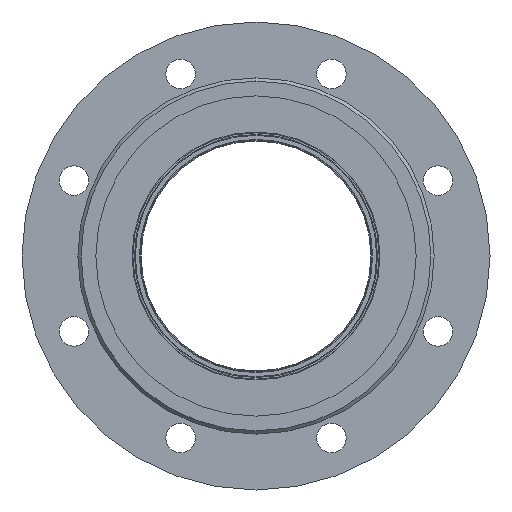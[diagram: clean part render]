
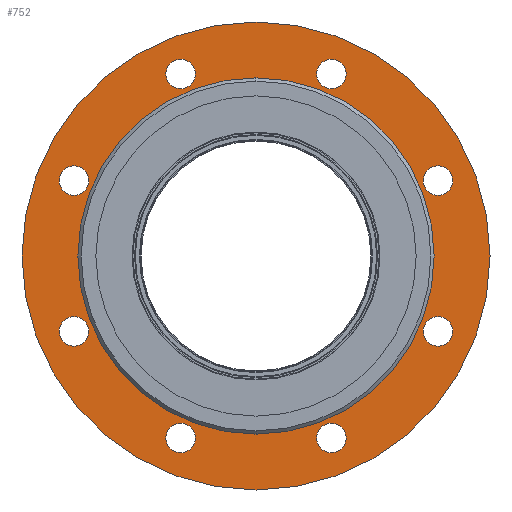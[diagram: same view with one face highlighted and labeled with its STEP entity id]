
A CAD part, left-side view. The second image highlights one B-rep face of the part: STEP entity #752.
In plain terms, the highlighted planar face has unit normal (-1, 0, 0).
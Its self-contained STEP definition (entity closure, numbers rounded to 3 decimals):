
#752=ADVANCED_FACE('',(#1439,#1440,#1441,#1442,#1443,#1444,#1445,#1446,#1447,#1448),#1449,.F.);
#1439=FACE_BOUND('',#2275,.T.);
#1440=FACE_BOUND('',#2276,.T.);
#1441=FACE_BOUND('',#2277,.T.);
#1442=FACE_BOUND('',#2278,.T.);
#1443=FACE_BOUND('',#2279,.T.);
#1444=FACE_BOUND('',#2280,.T.);
#1445=FACE_BOUND('',#2281,.T.);
#1446=FACE_BOUND('',#2282,.T.);
#1447=FACE_BOUND('',#2283,.T.);
#1448=FACE_OUTER_BOUND('',#2284,.T.);
#1449=PLANE('',#2285);
#2275=EDGE_LOOP('',(#3549,#3550));
#2276=EDGE_LOOP('',(#3551,#3552));
#2277=EDGE_LOOP('',(#3553,#3554));
#2278=EDGE_LOOP('',(#3555,#3556));
#2279=EDGE_LOOP('',(#3557,#3558));
#2280=EDGE_LOOP('',(#3559,#3560));
#2281=EDGE_LOOP('',(#3561,#3562));
#2282=EDGE_LOOP('',(#3563,#3564));
#2283=EDGE_LOOP('',(#3565,#3566));
#2284=EDGE_LOOP('',(#3567,#3568));
#2285=AXIS2_PLACEMENT_3D('',#3569,#3570,#3571);
#3549=ORIENTED_EDGE('',*,*,#4514,.T.);
#3550=ORIENTED_EDGE('',*,*,#4410,.T.);
#3551=ORIENTED_EDGE('',*,*,#4880,.T.);
#3552=ORIENTED_EDGE('',*,*,#4583,.T.);
#3553=ORIENTED_EDGE('',*,*,#4881,.T.);
#3554=ORIENTED_EDGE('',*,*,#4882,.T.);
#3555=ORIENTED_EDGE('',*,*,#4883,.T.);
#3556=ORIENTED_EDGE('',*,*,#4668,.T.);
#3557=ORIENTED_EDGE('',*,*,#4884,.T.);
#3558=ORIENTED_EDGE('',*,*,#4705,.T.);
#3559=ORIENTED_EDGE('',*,*,#4885,.T.);
#3560=ORIENTED_EDGE('',*,*,#4886,.T.);
#3561=ORIENTED_EDGE('',*,*,#4887,.T.);
#3562=ORIENTED_EDGE('',*,*,#4452,.T.);
#3563=ORIENTED_EDGE('',*,*,#4690,.T.);
#3564=ORIENTED_EDGE('',*,*,#4467,.T.);
#3565=ORIENTED_EDGE('',*,*,#4818,.T.);
#3566=ORIENTED_EDGE('',*,*,#4888,.T.);
#3567=ORIENTED_EDGE('',*,*,#4439,.F.);
#3568=ORIENTED_EDGE('',*,*,#4432,.F.);
#3569=CARTESIAN_POINT('',(5.0,0.0,0.));
#3570=DIRECTION('',(1.0,0.0,0.));
#3571=DIRECTION('',(0.,0.0,-1.0));
#4410=EDGE_CURVE('',#5110,#5114,#5116,.T.);
#4432=EDGE_CURVE('',#5154,#5149,#5156,.T.);
#4439=EDGE_CURVE('',#5149,#5154,#5167,.T.);
#4452=EDGE_CURVE('',#5188,#5186,#5189,.T.);
#4467=EDGE_CURVE('',#5215,#5213,#5216,.T.);
#4514=EDGE_CURVE('',#5114,#5110,#5298,.T.);
#4583=EDGE_CURVE('',#5409,#5407,#5410,.T.);
#4668=EDGE_CURVE('',#5543,#5541,#5544,.T.);
#4690=EDGE_CURVE('',#5213,#5215,#5574,.T.);
#4705=EDGE_CURVE('',#5601,#5599,#5602,.T.);
#4818=EDGE_CURVE('',#5758,#5762,#5764,.T.);
#4880=EDGE_CURVE('',#5407,#5409,#5842,.T.);
#4881=EDGE_CURVE('',#5843,#5844,#5845,.T.);
#4882=EDGE_CURVE('',#5844,#5843,#5846,.T.);
#4883=EDGE_CURVE('',#5541,#5543,#5847,.T.);
#4884=EDGE_CURVE('',#5599,#5601,#5848,.T.);
#4885=EDGE_CURVE('',#5849,#5850,#5851,.T.);
#4886=EDGE_CURVE('',#5850,#5849,#5852,.T.);
#4887=EDGE_CURVE('',#5186,#5188,#5853,.T.);
#4888=EDGE_CURVE('',#5762,#5758,#5854,.T.);
#5110=VERTEX_POINT('',#6120);
#5114=VERTEX_POINT('',#6125);
#5116=CIRCLE('',#6128,75.0);
#5149=VERTEX_POINT('',#6175);
#5154=VERTEX_POINT('',#6181);
#5156=CIRCLE('',#6184,142.5);
#5167=CIRCLE('',#6197,142.5);
#5186=VERTEX_POINT('',#6220);
#5188=VERTEX_POINT('',#6223);
#5189=CIRCLE('',#6224,9.0);
#5213=VERTEX_POINT('',#6249);
#5215=VERTEX_POINT('',#6252);
#5216=CIRCLE('',#6253,9.0);
#5298=CIRCLE('',#6351,75.0);
#5407=VERTEX_POINT('',#6484);
#5409=VERTEX_POINT('',#6487);
#5410=CIRCLE('',#6488,9.0);
#5541=VERTEX_POINT('',#6651);
#5543=VERTEX_POINT('',#6654);
#5544=CIRCLE('',#6655,9.0);
#5574=CIRCLE('',#6692,9.0);
#5599=VERTEX_POINT('',#6721);
#5601=VERTEX_POINT('',#6724);
#5602=CIRCLE('',#6725,9.0);
#5758=VERTEX_POINT('',#6924);
#5762=VERTEX_POINT('',#6929);
#5764=CIRCLE('',#6932,9.0);
#5842=CIRCLE('',#7028,9.0);
#5843=VERTEX_POINT('',#7029);
#5844=VERTEX_POINT('',#7030);
#5845=CIRCLE('',#7031,9.0);
#5846=CIRCLE('',#7032,9.0);
#5847=CIRCLE('',#7033,9.0);
#5848=CIRCLE('',#7034,9.0);
#5849=VERTEX_POINT('',#7035);
#5850=VERTEX_POINT('',#7036);
#5851=CIRCLE('',#7037,9.0);
#5852=CIRCLE('',#7038,9.0);
#5853=CIRCLE('',#7039,9.0);
#5854=CIRCLE('',#7040,9.0);
#6120=CARTESIAN_POINT('',(5.0,0.,-75.0));
#6125=CARTESIAN_POINT('',(5.0,0.,75.0));
#6128=AXIS2_PLACEMENT_3D('',#7363,#7364,#7365);
#6175=CARTESIAN_POINT('',(5.,0.0,-142.5));
#6181=CARTESIAN_POINT('',(5.,0.,142.5));
#6184=AXIS2_PLACEMENT_3D('',#7385,#7386,#7387);
#6197=AXIS2_PLACEMENT_3D('',#7396,#7397,#7398);
#6220=CARTESIAN_POINT('',(5.0,45.922,101.866));
#6223=CARTESIAN_POINT('',(5.,45.922,119.866));
#6224=AXIS2_PLACEMENT_3D('',#7413,#7414,#7415);
#6249=CARTESIAN_POINT('',(5.0,-110.866,-54.922));
#6252=CARTESIAN_POINT('',(5.0,-110.866,-36.922));
#6253=AXIS2_PLACEMENT_3D('',#7445,#7446,#7447);
#6351=AXIS2_PLACEMENT_3D('',#7527,#7528,#7529);
#6484=CARTESIAN_POINT('',(5.0,110.866,-54.922));
#6487=CARTESIAN_POINT('',(5.0,110.866,-36.922));
#6488=AXIS2_PLACEMENT_3D('',#7630,#7631,#7632);
#6651=CARTESIAN_POINT('',(5.0,-110.866,36.922));
#6654=CARTESIAN_POINT('',(5.0,-110.866,54.922));
#6655=AXIS2_PLACEMENT_3D('',#7756,#7757,#7758);
#6692=AXIS2_PLACEMENT_3D('',#7790,#7791,#7792);
#6721=CARTESIAN_POINT('',(5.0,-45.922,101.866));
#6724=CARTESIAN_POINT('',(5.,-45.922,119.866));
#6725=AXIS2_PLACEMENT_3D('',#7816,#7817,#7818);
#6924=CARTESIAN_POINT('',(5.0,-45.922,-119.866));
#6929=CARTESIAN_POINT('',(5.,-45.922,-101.866));
#6932=AXIS2_PLACEMENT_3D('',#7963,#7964,#7965);
#7028=AXIS2_PLACEMENT_3D('',#8041,#8042,#8043);
#7029=CARTESIAN_POINT('',(5.0,45.922,-119.866));
#7030=CARTESIAN_POINT('',(5.,45.922,-101.866));
#7031=AXIS2_PLACEMENT_3D('',#8044,#8045,#8046);
#7032=AXIS2_PLACEMENT_3D('',#8047,#8048,#8049);
#7033=AXIS2_PLACEMENT_3D('',#8050,#8051,#8052);
#7034=AXIS2_PLACEMENT_3D('',#8053,#8054,#8055);
#7035=CARTESIAN_POINT('',(5.0,110.866,36.922));
#7036=CARTESIAN_POINT('',(5.0,110.866,54.922));
#7037=AXIS2_PLACEMENT_3D('',#8056,#8057,#8058);
#7038=AXIS2_PLACEMENT_3D('',#8059,#8060,#8061);
#7039=AXIS2_PLACEMENT_3D('',#8062,#8063,#8064);
#7040=AXIS2_PLACEMENT_3D('',#8065,#8066,#8067);
#7363=CARTESIAN_POINT('',(5.0,0.0,0.));
#7364=DIRECTION('',(1.0,0.0,0.));
#7365=DIRECTION('',(0.,0.0,-1.0));
#7385=CARTESIAN_POINT('',(5.0,0.0,0.));
#7386=DIRECTION('',(1.0,0.0,0.));
#7387=DIRECTION('',(0.,0.0,-1.0));
#7396=CARTESIAN_POINT('',(5.0,0.0,0.));
#7397=DIRECTION('',(1.0,0.0,0.));
#7398=DIRECTION('',(0.,0.0,-1.0));
#7413=CARTESIAN_POINT('',(5.,45.922,110.866));
#7414=DIRECTION('',(1.0,0.0,0.));
#7415=DIRECTION('',(0.,0.0,-1.0));
#7445=CARTESIAN_POINT('',(5.0,-110.866,-45.922));
#7446=DIRECTION('',(1.0,0.0,0.));
#7447=DIRECTION('',(0.,0.0,-1.0));
#7527=CARTESIAN_POINT('',(5.0,0.0,0.));
#7528=DIRECTION('',(1.0,0.0,0.));
#7529=DIRECTION('',(0.,0.0,-1.0));
#7630=CARTESIAN_POINT('',(5.0,110.866,-45.922));
#7631=DIRECTION('',(1.0,0.0,0.));
#7632=DIRECTION('',(0.,0.0,-1.0));
#7756=CARTESIAN_POINT('',(5.0,-110.866,45.922));
#7757=DIRECTION('',(1.0,0.0,0.));
#7758=DIRECTION('',(0.,0.0,-1.0));
#7790=CARTESIAN_POINT('',(5.0,-110.866,-45.922));
#7791=DIRECTION('',(1.0,0.0,0.));
#7792=DIRECTION('',(0.,0.0,-1.0));
#7816=CARTESIAN_POINT('',(5.,-45.922,110.866));
#7817=DIRECTION('',(1.0,0.0,0.));
#7818=DIRECTION('',(0.,0.0,-1.0));
#7963=CARTESIAN_POINT('',(5.,-45.922,-110.866));
#7964=DIRECTION('',(1.0,0.0,0.));
#7965=DIRECTION('',(0.,0.0,-1.0));
#8041=CARTESIAN_POINT('',(5.0,110.866,-45.922));
#8042=DIRECTION('',(1.0,0.0,0.));
#8043=DIRECTION('',(0.,0.0,-1.0));
#8044=CARTESIAN_POINT('',(5.,45.922,-110.866));
#8045=DIRECTION('',(1.0,0.0,0.));
#8046=DIRECTION('',(0.,0.0,-1.0));
#8047=CARTESIAN_POINT('',(5.,45.922,-110.866));
#8048=DIRECTION('',(1.0,0.0,0.));
#8049=DIRECTION('',(0.,0.0,-1.0));
#8050=CARTESIAN_POINT('',(5.0,-110.866,45.922));
#8051=DIRECTION('',(1.0,0.0,0.));
#8052=DIRECTION('',(0.,0.0,-1.0));
#8053=CARTESIAN_POINT('',(5.,-45.922,110.866));
#8054=DIRECTION('',(1.0,0.0,0.));
#8055=DIRECTION('',(0.,0.0,-1.0));
#8056=CARTESIAN_POINT('',(5.0,110.866,45.922));
#8057=DIRECTION('',(1.0,0.0,0.));
#8058=DIRECTION('',(0.,0.0,-1.0));
#8059=CARTESIAN_POINT('',(5.0,110.866,45.922));
#8060=DIRECTION('',(1.0,0.0,0.));
#8061=DIRECTION('',(0.,0.0,-1.0));
#8062=CARTESIAN_POINT('',(5.,45.922,110.866));
#8063=DIRECTION('',(1.0,0.0,0.));
#8064=DIRECTION('',(0.,0.0,-1.0));
#8065=CARTESIAN_POINT('',(5.,-45.922,-110.866));
#8066=DIRECTION('',(1.0,0.0,0.));
#8067=DIRECTION('',(0.,0.0,-1.0));
